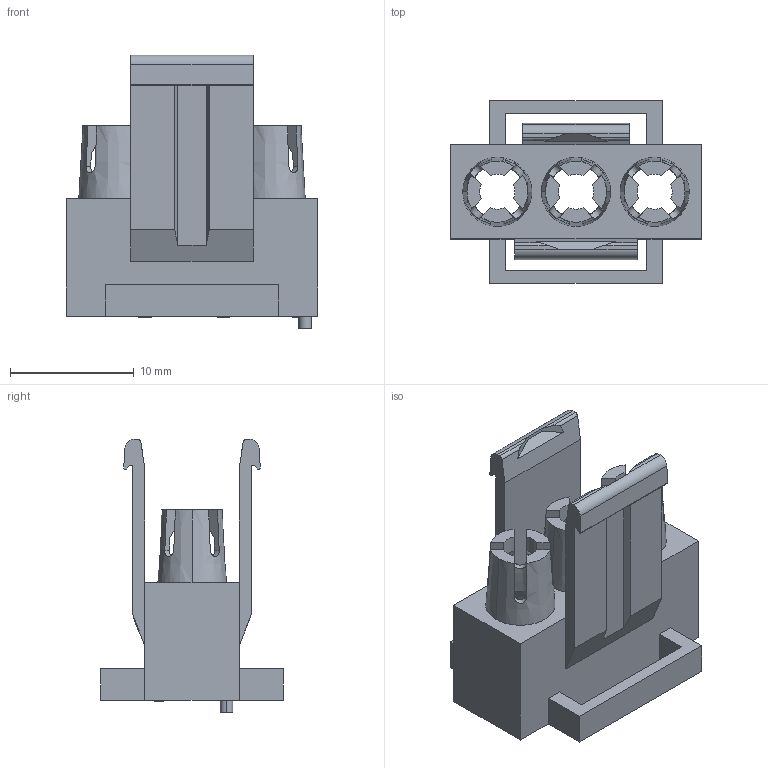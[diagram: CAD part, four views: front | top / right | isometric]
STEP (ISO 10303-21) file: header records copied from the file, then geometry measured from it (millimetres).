
FILE_DESCRIPTION (( 'STEP AP214' ), '1' );
FILE_NAME ('20687-Rear_Housing.STEP', '2011-07-06T13:53:31', ( 'Vicor Employee' ), ( 'Vicor Corporation' ), 'SwSTEP 2.0', 'SolidWorks 2010', '' );
FILE_SCHEMA (( 'AUTOMOTIVE_DESIGN' ));
Length unit declared in the file: inch
Products named in the file (1): 20687-Rear_Housing
Bounding box: 20.32 x 14.73 x 22.1 mm (x, y, z)
Volume: 1276 mm3; surface area: 2533.1 mm2
Topology: 1 solids, 1 shells, 307 faces, 880 edges, 582 vertices
Faces by surface type: plane 222, cylinder 50, cone 33, bspline 2
Entity records: 10276 total; most frequent: CARTESIAN_POINT 2306, ORIENTED_EDGE 1760, DIRECTION 1502, EDGE_CURVE 880, VECTOR 642, LINE 642, VERTEX_POINT 582, AXIS2_PLACEMENT_3D 430
